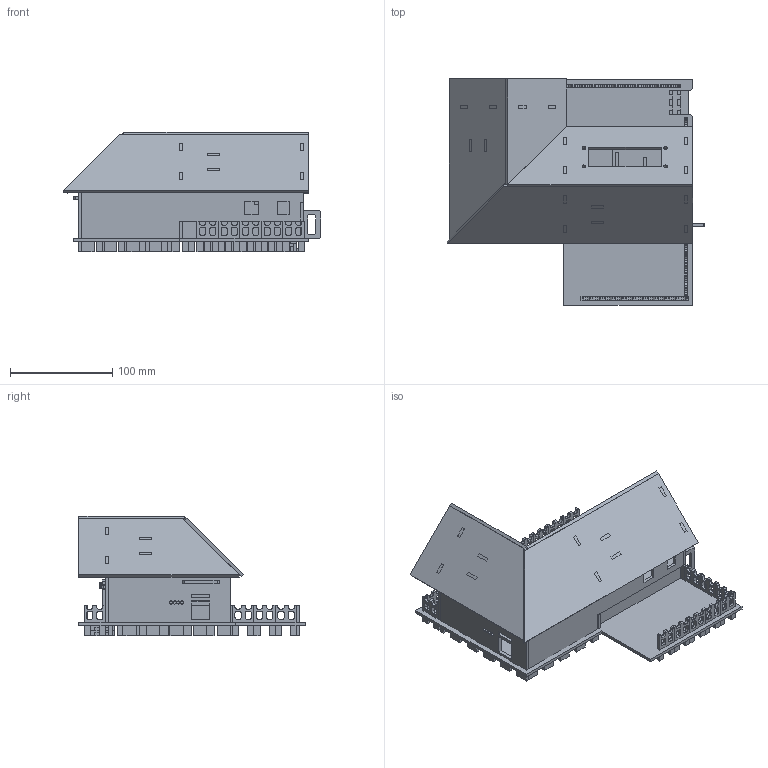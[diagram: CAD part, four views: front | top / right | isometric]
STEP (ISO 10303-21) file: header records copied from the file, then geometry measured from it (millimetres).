
FILE_DESCRIPTION(/* description */ (''),/* implementation_level */ '2;1');
FILE_NAME(/* name */ 'PM25æ¨¡~1',/* time_stamp */ '2017-03-17T12:09:00+08:00',/* author */ (''),/* organization */ (''),/* preprocessor_version */ 'ST-DEVELOPER v14',/* originating_system */ '',/* authorisation */ '');
FILE_SCHEMA (('CONFIG_CONTROL_DESIGN'));
Length unit declared in the file: millimetre
Products named in the file (1): Document
Bounding box: 251.76 x 221 x 116.79 mm (x, y, z)
Volume: 479790.6 mm3; surface area: 369720.8 mm2
Topology: 59 solids, 59 shells, 2014 faces, 5689 edges, 3793 vertices
Faces by surface type: plane 1251, bspline 763
Entity records: 57834 total; most frequent: CARTESIAN_POINT 22814, ORIENTED_EDGE 11376, EDGE_CURVE 5688, VERTEX_POINT 3792, B_SPLINE_CURVE_WITH_KNOTS 3742, EDGE_LOOP 2300, ADVANCED_FACE 2014, FACE_OUTER_BOUND 2014
